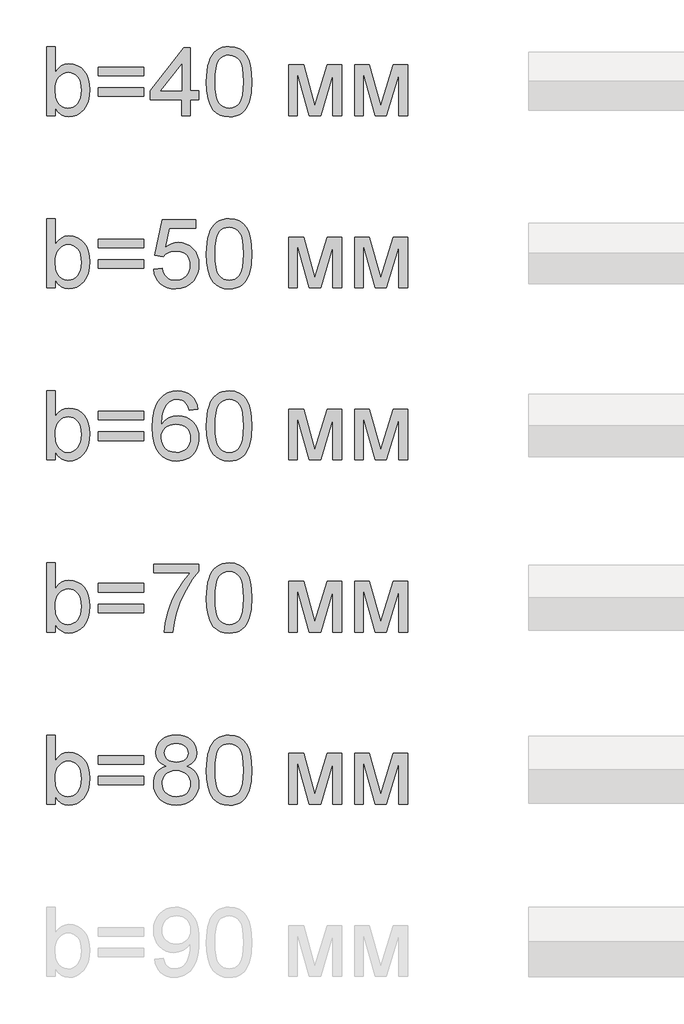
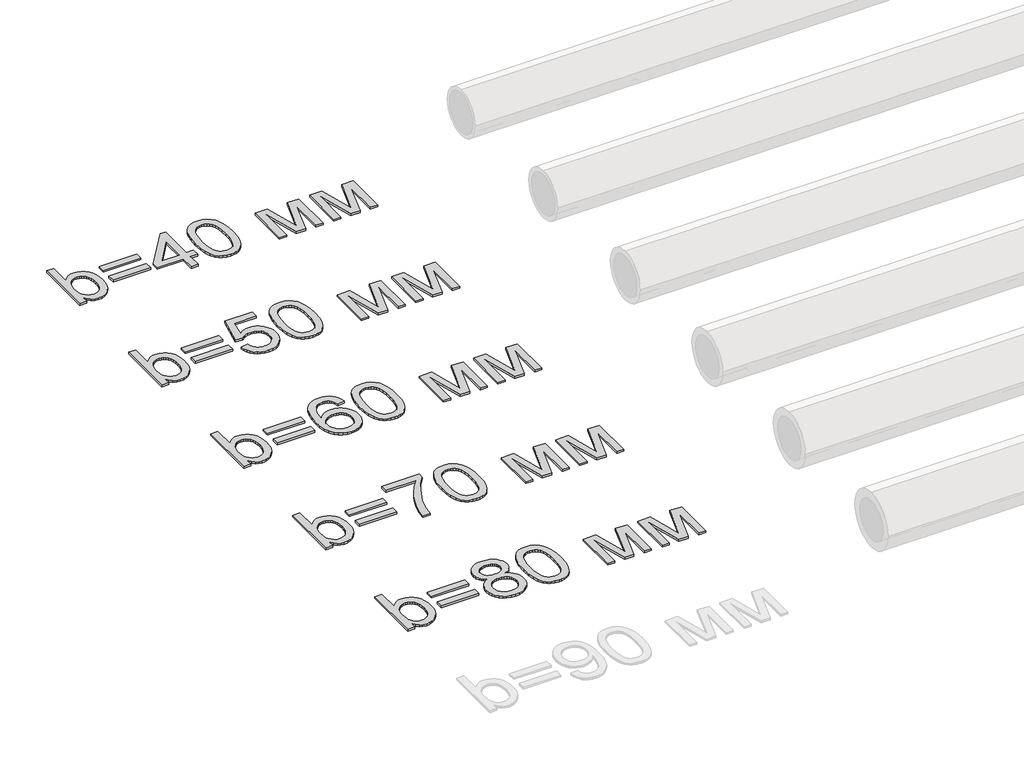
# One storey, part 67 of 86: 5 proxies.
"""IFC4 building model written with IfcOpenShell, lengths in millimetres."""

from ifc_helpers import new_model, si_unit, origin, origin_with_axes, place, context, project, spatial, polyline, outline, extrude, element, save

model = new_model("IFC4")

# Units and contexts
model_context = context("Model", 3, world=origin())
ifc_project = project(units=[si_unit("LENGTHUNIT", "METRE", prefix="MILLI")], contexts=[model_context])

# Site, building, storey
site = spatial("IfcSite", under=ifc_project)
building = spatial("IfcBuilding", under=site)
storey = spatial("IfcBuildingStorey", under=building, Name="Уровень 1", Elevation=0.0)

# Proxies
placement = place(None, origin())
element("IfcBuildingElementProxy", 1, Name="Текст модели 1", ObjectType="Текст модели 1", at=placement, inside=storey, context=model_context, shape_type="SweptSolid", body=[
    extrude(outline(polyline([(111159.6307988, 24669.2937088), (111084.2885662, 24669.2937088), (111084.2885662, 25272.0315697), (111159.6307988, 25272.0315697), (111159.6307988, 25048.5064694), (111184.4076512, 25080.3742473), (111212.3850769, 25103.1369457), (111243.563076, 25116.7945648), (111277.9416484, 25121.3471045), (111316.7531989, 25117.2452202), (111353.4310339, 25104.9395675), (111385.8782258, 25085.2026984), (111411.9978475, 25058.8071653), (111432.4704805, 25026.0104854), (111447.9767066, 24987.0701762), (111457.7439736, 24943.6049185), (111460.9997292, 24897.233393), (111457.6290105, 24843.7249568), (111447.5168541, 24796.6544555), (111430.6632602, 24756.0218892), (111407.0682288, 24721.8272577), (111378.7459136, 24694.7235517), (111347.7104688, 24675.3637617), (111313.9618943, 24663.7478877), (111277.50019, 24659.8759297), (111241.9903805, 24664.8699278), (111210.5088787, 24679.8519221), (111183.0556848, 24704.8219125), (111159.6307988, 24739.7798991), (111159.6307988, 24669.2937088)]), holes=[polyline([(111159.6307988, 24893.7017259), (111164.7811467, 24830.8674811), (111171.2190816, 24807.065516), (111180.2321905, 24788.3403224), (111198.4883345, 24765.0993774), (111219.7059286, 24748.4987024), (111243.8849727, 24738.5382973), (111271.0254669, 24735.2181623), (111293.5582391, 24737.6645776), (111314.5091188, 24745.0038234), (111333.8781058, 24757.2358997), (111351.6652003, 24774.3608066), (111366.5368299, 24796.3325588), (111377.1594225, 24823.105171), (111383.5329781, 24854.6786432), (111385.6574966, 24891.0529755), (111383.6203501, 24928.1170865), (111377.5089104, 24959.9940614), (111367.3231777, 24986.6839001), (111353.0631519, 25008.1866028), (111335.9152524, 25024.7320955), (111317.0658986, 25036.5503046), (111296.5150907, 25043.64123), (111274.2628285, 25046.0048719), (111251.7300563, 25043.5584566), (111230.7791767, 25036.2192108), (111211.4101896, 25023.9871344), (111193.6230951, 25006.8622276), (111178.7514655, 24985.1112046), (111168.1288729, 24959.00078), (111161.7553173, 24928.5309538), (111159.6307988, 24893.7017259)])]), origin_with_axes(), (0.0, 0.0, 1.0), 20.0),
    extrude(outline(polyline([(111931.8886831, 25017.7515346), (111536.3419619, 25017.7515346), (111536.3419619, 25093.0937672), (111931.8886831, 25093.0937672), (111931.8886831, 25017.7515346)])), origin_with_axes(), (0.0, 0.0, 1.0), 20.0),
    extrude(outline(polyline([(111931.8886831, 24838.8137322), (111536.3419619, 24838.8137322), (111536.3419619, 24914.1559648), (111931.8886831, 24914.1559648), (111931.8886831, 24838.8137322)])), origin_with_axes(), (0.0, 0.0, 1.0), 20.0),
    extrude(outline(polyline([(112261.5109507, 24669.2937088), (112261.5109507, 24810.5603949), (111988.3953575, 24810.5603949), (111988.3953575, 24885.9026276), (112280.3465089, 25262.6137906), (112336.8531834, 25262.6137906), (112336.8531834, 24885.9026276), (112412.195416, 24885.9026276), (112412.195416, 24810.5603949), (112336.8531834, 24810.5603949), (112336.8531834, 24669.2937088), (112261.5109507, 24669.2937088)]), holes=[polyline([(112261.5109507, 24885.9026276), (112261.5109507, 25118.6983541), (112081.1016203, 24885.9026276), (112261.5109507, 24885.9026276)])]), origin_with_axes(), (0.0, 0.0, 1.0), 20.0),
    extrude(outline(polyline([(112478.1198695, 24965.8065969), (112483.6564935, 25062.2836501), (112490.5772736, 25103.1967265), (112500.2663656, 25139.2261694), (112512.682383, 25170.6662845), (112527.7839389, 25197.8113772), (112545.5710333, 25220.6614476), (112566.0436664, 25239.2164957), (112589.2708158, 25253.5730906), (112615.3214596, 25263.8278012), (112644.1955977, 25269.9806276), (112675.8932301, 25272.0315697), (112722.3199379, 25267.1755274), (112763.8906034, 25252.6074004), (112798.6554519, 25228.8974058), (112824.664709, 25196.6157607), (112844.3096075, 25156.0383766), (112859.9813805, 25107.4411651), (112870.2452882, 25045.7289604), (112873.6665907, 24965.8065969), (112868.185149, 24869.8813667), (112861.3333468, 24829.106246), (112851.7408238, 24793.1227884), (112839.4213755, 24761.6688778), (112824.3887975, 24734.4823983), (112806.6430897, 24711.56335), (112786.1842523, 24692.9117329), (112762.9295116, 24678.458569), (112736.7960944, 24668.1348805), (112707.7840006, 24661.9406674), (112675.8932301, 24659.8759297), (112634.3961411, 24663.4627792), (112597.6079415, 24674.2233275), (112565.5286316, 24692.1575748), (112538.1582111, 24717.265521), (112511.8914367, 24762.6529621), (112493.1294549, 24819.2056218), (112481.8722659, 24886.9235001), (112478.1198695, 24965.8065969)]), holes=[polyline([(112553.4621021, 24965.9537497), (112555.6693941, 24900.456959), (112562.29127, 24847.440565), (112573.3277299, 24806.9045676), (112588.7787737, 24778.848967), (112607.467179, 24759.7604899), (112628.2157235, 24746.1258635), (112651.0244072, 24737.9450876), (112675.8932301, 24735.2181623), (112700.762053, 24737.9542847), (112723.5707367, 24746.1626517), (112744.3192812, 24759.8432634), (112763.0076866, 24778.9961198), (112778.4587304, 24807.0977057), (112789.4951902, 24847.624506), (112796.1170661, 24900.5765206), (112798.3243581, 24965.9537497), (112796.1906425, 25029.7168965), (112789.7894958, 25081.79979), (112779.120918, 25122.2024301), (112764.184909, 25150.9248169), (112745.8092033, 25170.9467945), (112724.8215355, 25185.248207), (112701.2219055, 25193.8290546), (112675.0103133, 25196.6893371), (112650.2702492, 25194.1693454), (112627.8478415, 25186.6093704), (112607.7430905, 25174.0094121), (112589.955996, 25156.3694704), (112573.9899175, 25125.0995008), (112562.5855756, 25082.9402242), (112555.7429705, 25029.8916405), (112553.4621021, 24965.9537497)])]), origin_with_axes(), (0.0, 0.0, 1.0), 20.0),
    extrude(outline(polyline([(113193.8710793, 25111.9293254), (113323.5126944, 25111.9293254), (113423.4294443, 24757.5853876), (113531.1452925, 25111.9293254), (113655.3422541, 25111.9293254), (113655.3422541, 24669.2937088), (113580.0000215, 24669.2937088), (113580.0000215, 25025.6977857), (113471.6955621, 24669.2937088), (113372.8088818, 24669.2937088), (113269.2133119, 25042.7675103), (113269.2133119, 24669.2937088), (113193.8710793, 24669.2937088), (113193.8710793, 25111.9293254)])), origin_with_axes(), (0.0, 0.0, 1.0), 20.0),
    extrude(outline(polyline([(113768.355603, 25111.9293254), (113897.9972181, 25111.9293254), (113997.913968, 24757.5853876), (114105.6298162, 25111.9293254), (114229.8267777, 25111.9293254), (114229.8267777, 24669.2937088), (114154.4845451, 24669.2937088), (114154.4845451, 25025.6977857), (114046.1800857, 24669.2937088), (113947.2934054, 24669.2937088), (113843.6978356, 25042.7675103), (113843.6978356, 24669.2937088), (113768.355603, 24669.2937088), (113768.355603, 25111.9293254)])), origin_with_axes(), (0.0, 0.0, 1.0), 20.0),
])
element("IfcBuildingElementProxy", 2, Name="Текст модели 1", ObjectType="Текст модели 1", at=placement, inside=storey, context=model_context, shape_type="SweptSolid", body=[
    extrude(outline(polyline([(111159.6307988, 23169.2937088), (111084.2885662, 23169.2937088), (111084.2885662, 23772.0315697), (111159.6307988, 23772.0315697), (111159.6307988, 23548.5064694), (111184.4076512, 23580.3742473), (111212.3850769, 23603.1369457), (111243.563076, 23616.7945648), (111277.9416484, 23621.3471045), (111316.7531989, 23617.2452202), (111353.4310339, 23604.9395675), (111385.8782258, 23585.2026984), (111411.9978475, 23558.8071653), (111432.4704805, 23526.0104854), (111447.9767066, 23487.0701762), (111457.7439736, 23443.6049185), (111460.9997292, 23397.233393), (111457.6290105, 23343.7249568), (111447.5168541, 23296.6544555), (111430.6632602, 23256.0218892), (111407.0682288, 23221.8272577), (111378.7459136, 23194.7235517), (111347.7104688, 23175.3637617), (111313.9618943, 23163.7478877), (111277.50019, 23159.8759297), (111241.9903805, 23164.8699278), (111210.5088787, 23179.8519221), (111183.0556848, 23204.8219125), (111159.6307988, 23239.7798991), (111159.6307988, 23169.2937088)]), holes=[polyline([(111159.6307988, 23393.7017259), (111164.7811467, 23330.8674811), (111171.2190816, 23307.065516), (111180.2321905, 23288.3403224), (111198.4883345, 23265.0993774), (111219.7059286, 23248.4987024), (111243.8849727, 23238.5382973), (111271.0254669, 23235.2181623), (111293.5582391, 23237.6645776), (111314.5091188, 23245.0038234), (111333.8781058, 23257.2358997), (111351.6652003, 23274.3608066), (111366.5368299, 23296.3325588), (111377.1594225, 23323.105171), (111383.5329781, 23354.6786432), (111385.6574966, 23391.0529755), (111383.6203501, 23428.1170865), (111377.5089104, 23459.9940614), (111367.3231777, 23486.6839001), (111353.0631519, 23508.1866028), (111335.9152524, 23524.7320955), (111317.0658986, 23536.5503046), (111296.5150907, 23543.64123), (111274.2628285, 23546.0048719), (111251.7300563, 23543.5584566), (111230.7791767, 23536.2192108), (111211.4101896, 23523.9871344), (111193.6230951, 23506.8622276), (111178.7514655, 23485.1112046), (111168.1288729, 23459.00078), (111161.7553173, 23428.5309538), (111159.6307988, 23393.7017259)])]), origin_with_axes(), (0.0, 0.0, 1.0), 20.0),
    extrude(outline(polyline([(111931.8886831, 23517.7515346), (111536.3419619, 23517.7515346), (111536.3419619, 23593.0937672), (111931.8886831, 23593.0937672), (111931.8886831, 23517.7515346)])), origin_with_axes(), (0.0, 0.0, 1.0), 20.0),
    extrude(outline(polyline([(111931.8886831, 23338.8137322), (111536.3419619, 23338.8137322), (111536.3419619, 23414.1559648), (111931.8886831, 23414.1559648), (111931.8886831, 23338.8137322)])), origin_with_axes(), (0.0, 0.0, 1.0), 20.0),
    extrude(outline(polyline([(112016.6486948, 23329.3959531), (112091.9909274, 23338.8137322), (112097.6195219, 23314.5933013), (112105.8232904, 23293.5826409), (112116.6022328, 23275.7817508), (112129.9563493, 23261.1906312), (112145.8580485, 23249.8276761), (112164.2797394, 23241.7112795), (112185.221422, 23236.8414416), (112208.6830962, 23235.2181623), (112237.3778919, 23237.4760381), (112262.6881731, 23244.2496653), (112284.61394, 23255.539044), (112303.1551926, 23271.3441743), (112317.8980636, 23290.8833067), (112328.4286857, 23313.3746922), (112334.7470589, 23338.8183307), (112336.8531834, 23367.2142222), (112334.8804162, 23394.0512138), (112328.9621146, 23417.9083611), (112319.0982786, 23438.7856644), (112305.2889082, 23456.6831234), (112287.4880181, 23471.0397183), (112265.6496232, 23481.2944289), (112239.7737234, 23487.4472553), (112209.8603186, 23489.4981974), (112173.3112424, 23486.2240476), (112143.7151359, 23476.4015984), (112120.0787177, 23461.3552248), (112101.4087064, 23442.409302), (112026.0664738, 23451.8270811), (112091.9909274, 23762.6137906), (112383.9420787, 23762.6137906), (112383.9420787, 23687.271558), (112152.9121858, 23687.271558), (112120.685723, 23521.2832018), (112147.2743942, 23540.3394891), (112174.5068589, 23553.951123), (112202.3831171, 23562.1181032), (112230.9031687, 23564.84043), (112267.5947992, 23561.4651127), (112301.2973885, 23551.3391608), (112332.0109366, 23534.4625743), (112359.7354435, 23510.8353531), (112382.6866814, 23481.9014342), (112399.0804228, 23449.1047543), (112408.9166677, 23412.4453135), (112412.195416, 23371.9231117), (112409.243163, 23332.8908321), (112400.3864039, 23296.5808791), (112385.6251389, 23262.993253), (112364.9593678, 23232.1279536), (112333.65261, 23200.5176931), (112297.1219279, 23177.9389357), (112255.3673214, 23164.3916812), (112208.3887906, 23159.8759297), (112169.5082623, 23162.777599), (112134.3893273, 23171.4826067), (112103.0319858, 23185.9909529), (112075.4362376, 23206.3026375), (112052.4758026, 23231.4059852), (112035.0244004, 23260.2893203), (112023.0820311, 23292.952643), (112016.6486948, 23329.3959531)])), origin_with_axes(), (0.0, 0.0, 1.0), 20.0),
    extrude(outline(polyline([(112478.1198695, 23465.8065969), (112483.6564935, 23562.2836501), (112490.5772736, 23603.1967265), (112500.2663656, 23639.2261694), (112512.682383, 23670.6662845), (112527.7839389, 23697.8113772), (112545.5710333, 23720.6614476), (112566.0436664, 23739.2164957), (112589.2708158, 23753.5730906), (112615.3214596, 23763.8278012), (112644.1955977, 23769.9806276), (112675.8932301, 23772.0315697), (112722.3199379, 23767.1755274), (112763.8906034, 23752.6074004), (112798.6554519, 23728.8974058), (112824.664709, 23696.6157607), (112844.3096075, 23656.0383766), (112859.9813805, 23607.4411651), (112870.2452882, 23545.7289604), (112873.6665907, 23465.8065969), (112868.185149, 23369.8813667), (112861.3333468, 23329.106246), (112851.7408238, 23293.1227884), (112839.4213755, 23261.6688778), (112824.3887975, 23234.4823983), (112806.6430897, 23211.56335), (112786.1842523, 23192.9117329), (112762.9295116, 23178.458569), (112736.7960944, 23168.1348805), (112707.7840006, 23161.9406674), (112675.8932301, 23159.8759297), (112634.3961411, 23163.4627792), (112597.6079415, 23174.2233275), (112565.5286316, 23192.1575748), (112538.1582111, 23217.265521), (112511.8914367, 23262.6529621), (112493.1294549, 23319.2056218), (112481.8722659, 23386.9235001), (112478.1198695, 23465.8065969)]), holes=[polyline([(112553.4621021, 23465.9537497), (112555.6693941, 23400.456959), (112562.29127, 23347.440565), (112573.3277299, 23306.9045676), (112588.7787737, 23278.848967), (112607.467179, 23259.7604899), (112628.2157235, 23246.1258635), (112651.0244072, 23237.9450876), (112675.8932301, 23235.2181623), (112700.762053, 23237.9542847), (112723.5707367, 23246.1626517), (112744.3192812, 23259.8432634), (112763.0076866, 23278.9961198), (112778.4587304, 23307.0977057), (112789.4951902, 23347.624506), (112796.1170661, 23400.5765206), (112798.3243581, 23465.9537497), (112796.1906425, 23529.7168965), (112789.7894958, 23581.79979), (112779.120918, 23622.2024301), (112764.184909, 23650.9248169), (112745.8092033, 23670.9467945), (112724.8215355, 23685.248207), (112701.2219055, 23693.8290546), (112675.0103133, 23696.6893371), (112650.2702492, 23694.1693454), (112627.8478415, 23686.6093704), (112607.7430905, 23674.0094121), (112589.955996, 23656.3694704), (112573.9899175, 23625.0995008), (112562.5855756, 23582.9402242), (112555.7429705, 23529.8916405), (112553.4621021, 23465.9537497)])]), origin_with_axes(), (0.0, 0.0, 1.0), 20.0),
    extrude(outline(polyline([(113193.8710793, 23611.9293254), (113323.5126944, 23611.9293254), (113423.4294443, 23257.5853876), (113531.1452925, 23611.9293254), (113655.3422541, 23611.9293254), (113655.3422541, 23169.2937088), (113580.0000215, 23169.2937088), (113580.0000215, 23525.6977857), (113471.6955621, 23169.2937088), (113372.8088818, 23169.2937088), (113269.2133119, 23542.7675103), (113269.2133119, 23169.2937088), (113193.8710793, 23169.2937088), (113193.8710793, 23611.9293254)])), origin_with_axes(), (0.0, 0.0, 1.0), 20.0),
    extrude(outline(polyline([(113768.355603, 23611.9293254), (113897.9972181, 23611.9293254), (113997.913968, 23257.5853876), (114105.6298162, 23611.9293254), (114229.8267777, 23611.9293254), (114229.8267777, 23169.2937088), (114154.4845451, 23169.2937088), (114154.4845451, 23525.6977857), (114046.1800857, 23169.2937088), (113947.2934054, 23169.2937088), (113843.6978356, 23542.7675103), (113843.6978356, 23169.2937088), (113768.355603, 23169.2937088), (113768.355603, 23611.9293254)])), origin_with_axes(), (0.0, 0.0, 1.0), 20.0),
])
element("IfcBuildingElementProxy", 3, Name="Текст модели 1", ObjectType="Текст модели 1", at=placement, inside=storey, context=model_context, shape_type="SweptSolid", body=[
    extrude(outline(polyline([(111159.6307988, 21669.2937088), (111084.2885662, 21669.2937088), (111084.2885662, 22272.0315697), (111159.6307988, 22272.0315697), (111159.6307988, 22048.5064694), (111184.4076512, 22080.3742473), (111212.3850769, 22103.1369457), (111243.563076, 22116.7945648), (111277.9416484, 22121.3471045), (111316.7531989, 22117.2452202), (111353.4310339, 22104.9395675), (111385.8782258, 22085.2026984), (111411.9978475, 22058.8071653), (111432.4704805, 22026.0104854), (111447.9767066, 21987.0701762), (111457.7439736, 21943.6049185), (111460.9997292, 21897.233393), (111457.6290105, 21843.7249568), (111447.5168541, 21796.6544555), (111430.6632602, 21756.0218892), (111407.0682288, 21721.8272577), (111378.7459136, 21694.7235517), (111347.7104688, 21675.3637617), (111313.9618943, 21663.7478877), (111277.50019, 21659.8759297), (111241.9903805, 21664.8699278), (111210.5088787, 21679.8519221), (111183.0556848, 21704.8219125), (111159.6307988, 21739.7798991), (111159.6307988, 21669.2937088)]), holes=[polyline([(111159.6307988, 21893.7017259), (111164.7811467, 21830.8674811), (111171.2190816, 21807.065516), (111180.2321905, 21788.3403224), (111198.4883345, 21765.0993774), (111219.7059286, 21748.4987024), (111243.8849727, 21738.5382973), (111271.0254669, 21735.2181623), (111293.5582391, 21737.6645776), (111314.5091188, 21745.0038234), (111333.8781058, 21757.2358997), (111351.6652003, 21774.3608066), (111366.5368299, 21796.3325588), (111377.1594225, 21823.105171), (111383.5329781, 21854.6786432), (111385.6574966, 21891.0529755), (111383.6203501, 21928.1170865), (111377.5089104, 21959.9940614), (111367.3231777, 21986.6839001), (111353.0631519, 22008.1866028), (111335.9152524, 22024.7320955), (111317.0658986, 22036.5503046), (111296.5150907, 22043.64123), (111274.2628285, 22046.0048719), (111251.7300563, 22043.5584566), (111230.7791767, 22036.2192108), (111211.4101896, 22023.9871344), (111193.6230951, 22006.8622276), (111178.7514655, 21985.1112046), (111168.1288729, 21959.00078), (111161.7553173, 21928.5309538), (111159.6307988, 21893.7017259)])]), origin_with_axes(), (0.0, 0.0, 1.0), 20.0),
    extrude(outline(polyline([(111931.8886831, 22017.7515346), (111536.3419619, 22017.7515346), (111536.3419619, 22093.0937672), (111931.8886831, 22093.0937672), (111931.8886831, 22017.7515346)])), origin_with_axes(), (0.0, 0.0, 1.0), 20.0),
    extrude(outline(polyline([(111931.8886831, 21838.8137322), (111536.3419619, 21838.8137322), (111536.3419619, 21914.1559648), (111931.8886831, 21914.1559648), (111931.8886831, 21838.8137322)])), origin_with_axes(), (0.0, 0.0, 1.0), 20.0),
    extrude(outline(polyline([(112402.7776369, 22111.9293254), (112327.4354043, 22102.5115463), (112315.2952984, 22139.8515688), (112298.8877615, 22165.3457911), (112282.6917566, 22179.0585925), (112264.7115241, 22188.8534506), (112244.9470639, 22194.7303655), (112223.398376, 22196.6893371), (112188.3760101, 22192.1276003), (112155.4137833, 22178.4423901), (112127.1052638, 22149.6188358), (112103.9838804, 22109.9427626), (112094.9477789, 22084.6370799), (112088.3672897, 22053.8223643), (112082.5731483, 21975.6658344), (112112.7946542, 22010.9273236), (112149.0126366, 22035.7777524), (112189.2037446, 22050.5114263), (112231.3446271, 22055.4226509), (112267.5442155, 22052.0657277), (112300.9479006, 22041.9949581), (112331.5556826, 22025.2103421), (112359.3675615, 22001.7118796), (112382.4797478, 21972.8975224), (112398.9884523, 21940.1652218), (112408.8936751, 21903.5149781), (112412.195416, 21862.9467911), (112410.6411145, 21835.4798016), (112405.9782103, 21808.9968965), (112398.2067031, 21783.4980757), (112387.3265931, 21758.9833392), (112373.7241563, 21736.3677936), (112357.7856689, 21716.5665452), (112339.5111308, 21699.5795941), (112318.900542, 21685.4069402), (112296.3953609, 21674.2371231), (112272.437046, 21666.2586823), (112247.0255972, 21661.4716179), (112220.1610145, 21659.8759297), (112175.2472214, 21664.1065727), (112134.6836329, 21676.7985015), (112098.470249, 21697.9517162), (112066.6070697, 21727.5662168), (112040.6300023, 21766.8928021), (112022.0749542, 21817.1822709), (112010.9419253, 21878.4346231), (112007.2309157, 21950.6498587), (112011.351194, 22031.6114888), (112023.7120291, 22100.7089245), (112044.3134208, 22157.9421659), (112057.7043254, 22182.1097138), (112073.1553692, 22203.311213), (112104.4161418, 22233.3763691), (112140.6617153, 22254.8514805), (112181.8920899, 22267.7365474), (112228.1072656, 22272.0315697), (112262.8077348, 22269.3736223), (112294.2156601, 22261.39978), (112322.3310416, 22248.110043), (112347.1538792, 22229.5044111), (112368.0127884, 22206.2082837), (112384.2363843, 22178.8470603), (112395.8246672, 22147.4207409), (112402.7776369, 22111.9293254)]), holes=[polyline([(112082.5731483, 21864.1240134), (112086.9325499, 21830.7387224), (112100.0107549, 21798.8617475), (112120.317841, 21771.4545389), (112146.3638863, 21751.4785465), (112177.7994027, 21739.2832584), (112214.2749026, 21735.2181623), (112240.4635021, 21737.3242868), (112263.9941542, 21743.64266), (112284.8668589, 21754.1732821), (112303.0816162, 21768.9161531), (112317.8566768, 21787.2734647), (112328.4102916, 21808.6474086), (112334.7424604, 21833.0379849), (112336.8531834, 21860.4451935), (112334.7700516, 21886.7809458), (112328.5206562, 21910.1644451), (112318.1049972, 21930.5956914), (112303.5230746, 21948.0746847), (112285.253135, 21962.0771932), (112263.773425, 21972.0789849), (112239.0839446, 21978.08006), (112211.1846938, 21980.0804183), (112185.3455822, 21978.08006), (112161.5390186, 21972.0789849), (112139.765003, 21962.0771932), (112120.0235354, 21948.0746847), (112103.638991, 21930.8256177), (112091.9357451, 21911.0841501), (112084.9137975, 21888.850282), (112082.5731483, 21864.1240134)])]), origin_with_axes(), (0.0, 0.0, 1.0), 20.0),
    extrude(outline(polyline([(112478.1198695, 21965.8065969), (112483.6564935, 22062.2836501), (112490.5772736, 22103.1967265), (112500.2663656, 22139.2261694), (112512.682383, 22170.6662845), (112527.7839389, 22197.8113772), (112545.5710333, 22220.6614476), (112566.0436664, 22239.2164957), (112589.2708158, 22253.5730906), (112615.3214596, 22263.8278012), (112644.1955977, 22269.9806276), (112675.8932301, 22272.0315697), (112722.3199379, 22267.1755274), (112763.8906034, 22252.6074004), (112798.6554519, 22228.8974058), (112824.664709, 22196.6157607), (112844.3096075, 22156.0383766), (112859.9813805, 22107.4411651), (112870.2452882, 22045.7289604), (112873.6665907, 21965.8065969), (112868.185149, 21869.8813667), (112861.3333468, 21829.106246), (112851.7408238, 21793.1227884), (112839.4213755, 21761.6688778), (112824.3887975, 21734.4823983), (112806.6430897, 21711.56335), (112786.1842523, 21692.9117329), (112762.9295116, 21678.458569), (112736.7960944, 21668.1348805), (112707.7840006, 21661.9406674), (112675.8932301, 21659.8759297), (112634.3961411, 21663.4627792), (112597.6079415, 21674.2233275), (112565.5286316, 21692.1575748), (112538.1582111, 21717.265521), (112511.8914367, 21762.6529621), (112493.1294549, 21819.2056218), (112481.8722659, 21886.9235001), (112478.1198695, 21965.8065969)]), holes=[polyline([(112553.4621021, 21965.9537497), (112555.6693941, 21900.456959), (112562.29127, 21847.440565), (112573.3277299, 21806.9045676), (112588.7787737, 21778.848967), (112607.467179, 21759.7604899), (112628.2157235, 21746.1258635), (112651.0244072, 21737.9450876), (112675.8932301, 21735.2181623), (112700.762053, 21737.9542847), (112723.5707367, 21746.1626517), (112744.3192812, 21759.8432634), (112763.0076866, 21778.9961198), (112778.4587304, 21807.0977057), (112789.4951902, 21847.624506), (112796.1170661, 21900.5765206), (112798.3243581, 21965.9537497), (112796.1906425, 22029.7168965), (112789.7894958, 22081.79979), (112779.120918, 22122.2024301), (112764.184909, 22150.9248169), (112745.8092033, 22170.9467945), (112724.8215355, 22185.248207), (112701.2219055, 22193.8290546), (112675.0103133, 22196.6893371), (112650.2702492, 22194.1693454), (112627.8478415, 22186.6093704), (112607.7430905, 22174.0094121), (112589.955996, 22156.3694704), (112573.9899175, 22125.0995008), (112562.5855756, 22082.9402242), (112555.7429705, 22029.8916405), (112553.4621021, 21965.9537497)])]), origin_with_axes(), (0.0, 0.0, 1.0), 20.0),
    extrude(outline(polyline([(113193.8710793, 22111.9293254), (113323.5126944, 22111.9293254), (113423.4294443, 21757.5853876), (113531.1452925, 22111.9293254), (113655.3422541, 22111.9293254), (113655.3422541, 21669.2937088), (113580.0000215, 21669.2937088), (113580.0000215, 22025.6977857), (113471.6955621, 21669.2937088), (113372.8088818, 21669.2937088), (113269.2133119, 22042.7675103), (113269.2133119, 21669.2937088), (113193.8710793, 21669.2937088), (113193.8710793, 22111.9293254)])), origin_with_axes(), (0.0, 0.0, 1.0), 20.0),
    extrude(outline(polyline([(113768.355603, 22111.9293254), (113897.9972181, 22111.9293254), (113997.913968, 21757.5853876), (114105.6298162, 22111.9293254), (114229.8267777, 22111.9293254), (114229.8267777, 21669.2937088), (114154.4845451, 21669.2937088), (114154.4845451, 22025.6977857), (114046.1800857, 21669.2937088), (113947.2934054, 21669.2937088), (113843.6978356, 22042.7675103), (113843.6978356, 21669.2937088), (113768.355603, 21669.2937088), (113768.355603, 22111.9293254)])), origin_with_axes(), (0.0, 0.0, 1.0), 20.0),
])
element("IfcBuildingElementProxy", 4, Name="Текст модели 1", ObjectType="Текст модели 1", at=placement, inside=storey, context=model_context, shape_type="SweptSolid", body=[
    extrude(outline(polyline([(111159.6307988, 20169.2937088), (111084.2885662, 20169.2937088), (111084.2885662, 20772.0315697), (111159.6307988, 20772.0315697), (111159.6307988, 20548.5064694), (111184.4076512, 20580.3742473), (111212.3850769, 20603.1369457), (111243.563076, 20616.7945648), (111277.9416484, 20621.3471045), (111316.7531989, 20617.2452202), (111353.4310339, 20604.9395675), (111385.8782258, 20585.2026984), (111411.9978475, 20558.8071653), (111432.4704805, 20526.0104854), (111447.9767066, 20487.0701762), (111457.7439736, 20443.6049185), (111460.9997292, 20397.233393), (111457.6290105, 20343.7249568), (111447.5168541, 20296.6544555), (111430.6632602, 20256.0218892), (111407.0682288, 20221.8272577), (111378.7459136, 20194.7235517), (111347.7104688, 20175.3637617), (111313.9618943, 20163.7478877), (111277.50019, 20159.8759297), (111241.9903805, 20164.8699278), (111210.5088787, 20179.8519221), (111183.0556848, 20204.8219125), (111159.6307988, 20239.7798991), (111159.6307988, 20169.2937088)]), holes=[polyline([(111159.6307988, 20393.7017259), (111164.7811467, 20330.8674811), (111171.2190816, 20307.065516), (111180.2321905, 20288.3403224), (111198.4883345, 20265.0993774), (111219.7059286, 20248.4987024), (111243.8849727, 20238.5382973), (111271.0254669, 20235.2181623), (111293.5582391, 20237.6645776), (111314.5091188, 20245.0038234), (111333.8781058, 20257.2358997), (111351.6652003, 20274.3608066), (111366.5368299, 20296.3325588), (111377.1594225, 20323.105171), (111383.5329781, 20354.6786432), (111385.6574966, 20391.0529755), (111383.6203501, 20428.1170865), (111377.5089104, 20459.9940614), (111367.3231777, 20486.6839001), (111353.0631519, 20508.1866028), (111335.9152524, 20524.7320955), (111317.0658986, 20536.5503046), (111296.5150907, 20543.64123), (111274.2628285, 20546.0048719), (111251.7300563, 20543.5584566), (111230.7791767, 20536.2192108), (111211.4101896, 20523.9871344), (111193.6230951, 20506.8622276), (111178.7514655, 20485.1112046), (111168.1288729, 20459.00078), (111161.7553173, 20428.5309538), (111159.6307988, 20393.7017259)])]), origin_with_axes(), (0.0, 0.0, 1.0), 20.0),
    extrude(outline(polyline([(111931.8886831, 20517.7515346), (111536.3419619, 20517.7515346), (111536.3419619, 20593.0937672), (111931.8886831, 20593.0937672), (111931.8886831, 20517.7515346)])), origin_with_axes(), (0.0, 0.0, 1.0), 20.0),
    extrude(outline(polyline([(111931.8886831, 20338.8137322), (111536.3419619, 20338.8137322), (111536.3419619, 20414.1559648), (111931.8886831, 20414.1559648), (111931.8886831, 20338.8137322)])), origin_with_axes(), (0.0, 0.0, 1.0), 20.0),
    extrude(outline(polyline([(112016.6486948, 20687.271558), (112016.6486948, 20762.6137906), (112412.195416, 20762.6137906), (112412.195416, 20701.6925322), (112355.8175002, 20630.3418193), (112299.9914074, 20539.6037251), (112250.7504024, 20437.7555948), (112230.861782, 20385.7692703), (112214.1277498, 20333.0747731), (112196.1751084, 20254.7526963), (112186.1687181, 20169.2937088), (112110.8264855, 20169.2937088), (112118.9750717, 20246.953598), (112140.7720799, 20339.2551906), (112156.6415895, 20388.6203558), (112175.628899, 20437.0934072), (112197.7340084, 20484.6743447), (112222.9569177, 20531.3631685), (112278.2127933, 20616.5830326), (112336.8531834, 20687.271558), (112016.6486948, 20687.271558)])), origin_with_axes(), (0.0, 0.0, 1.0), 20.0),
    extrude(outline(polyline([(112478.1198695, 20465.8065969), (112483.6564935, 20562.2836501), (112490.5772736, 20603.1967265), (112500.2663656, 20639.2261694), (112512.682383, 20670.6662845), (112527.7839389, 20697.8113772), (112545.5710333, 20720.6614476), (112566.0436664, 20739.2164957), (112589.2708158, 20753.5730906), (112615.3214596, 20763.8278012), (112644.1955977, 20769.9806276), (112675.8932301, 20772.0315697), (112722.3199379, 20767.1755274), (112763.8906034, 20752.6074004), (112798.6554519, 20728.8974058), (112824.664709, 20696.6157607), (112844.3096075, 20656.0383766), (112859.9813805, 20607.4411651), (112870.2452882, 20545.7289604), (112873.6665907, 20465.8065969), (112868.185149, 20369.8813667), (112861.3333468, 20329.106246), (112851.7408238, 20293.1227884), (112839.4213755, 20261.6688778), (112824.3887975, 20234.4823983), (112806.6430897, 20211.56335), (112786.1842523, 20192.9117329), (112762.9295116, 20178.458569), (112736.7960944, 20168.1348805), (112707.7840006, 20161.9406674), (112675.8932301, 20159.8759297), (112634.3961411, 20163.4627792), (112597.6079415, 20174.2233275), (112565.5286316, 20192.1575748), (112538.1582111, 20217.265521), (112511.8914367, 20262.6529621), (112493.1294549, 20319.2056218), (112481.8722659, 20386.9235001), (112478.1198695, 20465.8065969)]), holes=[polyline([(112553.4621021, 20465.9537497), (112555.6693941, 20400.456959), (112562.29127, 20347.440565), (112573.3277299, 20306.9045676), (112588.7787737, 20278.848967), (112607.467179, 20259.7604899), (112628.2157235, 20246.1258635), (112651.0244072, 20237.9450876), (112675.8932301, 20235.2181623), (112700.762053, 20237.9542847), (112723.5707367, 20246.1626517), (112744.3192812, 20259.8432634), (112763.0076866, 20278.9961198), (112778.4587304, 20307.0977057), (112789.4951902, 20347.624506), (112796.1170661, 20400.5765206), (112798.3243581, 20465.9537497), (112796.1906425, 20529.7168965), (112789.7894958, 20581.79979), (112779.120918, 20622.2024301), (112764.184909, 20650.9248169), (112745.8092033, 20670.9467945), (112724.8215355, 20685.248207), (112701.2219055, 20693.8290546), (112675.0103133, 20696.6893371), (112650.2702492, 20694.1693454), (112627.8478415, 20686.6093704), (112607.7430905, 20674.0094121), (112589.955996, 20656.3694704), (112573.9899175, 20625.0995008), (112562.5855756, 20582.9402242), (112555.7429705, 20529.8916405), (112553.4621021, 20465.9537497)])]), origin_with_axes(), (0.0, 0.0, 1.0), 20.0),
    extrude(outline(polyline([(113193.8710793, 20611.9293254), (113323.5126944, 20611.9293254), (113423.4294443, 20257.5853876), (113531.1452925, 20611.9293254), (113655.3422541, 20611.9293254), (113655.3422541, 20169.2937088), (113580.0000215, 20169.2937088), (113580.0000215, 20525.6977857), (113471.6955621, 20169.2937088), (113372.8088818, 20169.2937088), (113269.2133119, 20542.7675103), (113269.2133119, 20169.2937088), (113193.8710793, 20169.2937088), (113193.8710793, 20611.9293254)])), origin_with_axes(), (0.0, 0.0, 1.0), 20.0),
    extrude(outline(polyline([(113768.355603, 20611.9293254), (113897.9972181, 20611.9293254), (113997.913968, 20257.5853876), (114105.6298162, 20611.9293254), (114229.8267777, 20611.9293254), (114229.8267777, 20169.2937088), (114154.4845451, 20169.2937088), (114154.4845451, 20525.6977857), (114046.1800857, 20169.2937088), (113947.2934054, 20169.2937088), (113843.6978356, 20542.7675103), (113843.6978356, 20169.2937088), (113768.355603, 20169.2937088), (113768.355603, 20611.9293254)])), origin_with_axes(), (0.0, 0.0, 1.0), 20.0),
])
element("IfcBuildingElementProxy", 5, Name="Текст модели 1", ObjectType="Текст модели 1", at=placement, inside=storey, context=model_context, shape_type="SweptSolid", body=[
    extrude(outline(polyline([(111159.6307988, 18669.2937088), (111084.2885662, 18669.2937088), (111084.2885662, 19272.0315697), (111159.6307988, 19272.0315697), (111159.6307988, 19048.5064694), (111184.4076512, 19080.3742473), (111212.3850769, 19103.1369457), (111243.563076, 19116.7945648), (111277.9416484, 19121.3471045), (111316.7531989, 19117.2452202), (111353.4310339, 19104.9395675), (111385.8782258, 19085.2026984), (111411.9978475, 19058.8071653), (111432.4704805, 19026.0104854), (111447.9767066, 18987.0701762), (111457.7439736, 18943.6049185), (111460.9997292, 18897.233393), (111457.6290105, 18843.7249568), (111447.5168541, 18796.6544555), (111430.6632602, 18756.0218892), (111407.0682288, 18721.8272577), (111378.7459136, 18694.7235517), (111347.7104688, 18675.3637617), (111313.9618943, 18663.7478877), (111277.50019, 18659.8759297), (111241.9903805, 18664.8699278), (111210.5088787, 18679.8519221), (111183.0556848, 18704.8219125), (111159.6307988, 18739.7798991), (111159.6307988, 18669.2937088)]), holes=[polyline([(111159.6307988, 18893.7017259), (111164.7811467, 18830.8674811), (111171.2190816, 18807.065516), (111180.2321905, 18788.3403224), (111198.4883345, 18765.0993774), (111219.7059286, 18748.4987024), (111243.8849727, 18738.5382973), (111271.0254669, 18735.2181623), (111293.5582391, 18737.6645776), (111314.5091188, 18745.0038234), (111333.8781058, 18757.2358997), (111351.6652003, 18774.3608066), (111366.5368299, 18796.3325588), (111377.1594225, 18823.105171), (111383.5329781, 18854.6786432), (111385.6574966, 18891.0529755), (111383.6203501, 18928.1170865), (111377.5089104, 18959.9940614), (111367.3231777, 18986.6839001), (111353.0631519, 19008.1866028), (111335.9152524, 19024.7320955), (111317.0658986, 19036.5503046), (111296.5150907, 19043.64123), (111274.2628285, 19046.0048719), (111251.7300563, 19043.5584566), (111230.7791767, 19036.2192108), (111211.4101896, 19023.9871344), (111193.6230951, 19006.8622276), (111178.7514655, 18985.1112046), (111168.1288729, 18959.00078), (111161.7553173, 18928.5309538), (111159.6307988, 18893.7017259)])]), origin_with_axes(), (0.0, 0.0, 1.0), 20.0),
    extrude(outline(polyline([(111931.8886831, 19017.7515346), (111536.3419619, 19017.7515346), (111536.3419619, 19093.0937672), (111931.8886831, 19093.0937672), (111931.8886831, 19017.7515346)])), origin_with_axes(), (0.0, 0.0, 1.0), 20.0),
    extrude(outline(polyline([(111931.8886831, 18838.8137322), (111536.3419619, 18838.8137322), (111536.3419619, 18914.1559648), (111931.8886831, 18914.1559648), (111931.8886831, 18838.8137322)])), origin_with_axes(), (0.0, 0.0, 1.0), 20.0),
    extrude(outline(polyline([(112126.4246821, 19001.2704212), (112086.0864213, 19021.136049), (112070.4284439, 19033.7176132), (112057.7779018, 19048.065011), (112041.0576651, 19081.5054844), (112035.4842529, 19120.9056461), (112038.5192794, 19151.6329897), (112047.6243588, 19179.8035535), (112062.7994911, 19205.4173374), (112084.0446763, 19228.4743415), (112110.3390419, 19247.5306288), (112140.6617153, 19261.1422626), (112175.0126966, 19269.3092429), (112213.3919858, 19272.0315697), (112251.9552159, 19269.2448636), (112286.5637146, 19260.8847452), (112317.2174819, 19246.9512147), (112343.9165177, 19227.4442719), (112365.547979, 19203.9366124), (112380.9990228, 19178.0009317), (112390.2696491, 19149.6372299), (112393.3598578, 19118.8455069), (112387.860022, 19080.7145381), (112371.3605145, 19047.8442818), (112358.9398986, 19033.593453), (112343.6773944, 19021.0808667), (112304.6267206, 19001.2704212), (112329.3897774, 18990.7352006), (112350.9982461, 18977.3764857), (112369.4521267, 18961.1942764), (112384.7514191, 18942.1885728), (112396.7581677, 18920.7824392), (112405.3344168, 18897.3989399), (112410.4801662, 18872.0380749), (112412.195416, 18844.6998441), (112408.7925075, 18807.1206983), (112398.5837822, 18772.6685494), (112381.5692399, 18741.3433976), (112357.7488807, 18713.1452426), (112328.3735034, 18689.8399182), (112294.6939067, 18673.1932579), (112256.7100907, 18663.2052618), (112214.4220554, 18659.8759297), (112172.13402, 18663.2190574), (112134.150204, 18673.2484402), (112100.4706074, 18689.9640784), (112071.09523, 18713.3659718), (112047.2748709, 18741.7618633), (112030.2603286, 18773.4594957), (112020.0516032, 18808.458869), (112016.6486948, 18846.7599833), (112018.4329224, 18875.3444143), (112023.7856055, 18901.5008242), (112032.7067438, 18925.2292128), (112045.1963376, 18946.5295804), (112060.9784752, 18965.0156506), (112079.7772451, 18980.3011475), (112101.5926474, 18992.3860711), (112126.4246821, 19001.2704212)]), holes=[polyline([(112110.8264855, 19118.6983541), (112112.4957501, 19101.4262944), (112117.5035437, 19085.8097037), (112125.8498665, 19071.848582), (112137.5347184, 19059.5429293), (112152.4109466, 19049.4997508), (112170.3313982, 19042.3260519), (112191.2960734, 19038.0218326), (112215.3049722, 19036.5870928), (112238.7206611, 19038.0126355), (112259.2300824, 19042.2892637), (112276.8332358, 19049.4169774), (112291.5301216, 19059.3957765), (112303.1184044, 19071.4439118), (112311.3957493, 19084.7796342), (112316.3621562, 19099.4029435), (112318.0176252, 19115.3138398), (112316.3069739, 19131.8455369), (112311.1750201, 19147.0068736), (112302.6217637, 19160.7978499), (112290.6472048, 19173.2184658), (112275.6192253, 19183.486972), (112257.9057072, 19190.8216193), (112237.5066506, 19195.2224076), (112214.4220554, 19196.6893371), (112191.1581177, 19195.2545973), (112170.662492, 19190.950378), (112152.9351784, 19183.7766791), (112137.9761768, 19173.7335006), (112126.0981868, 19161.6853652), (112117.6139083, 19148.4967957), (112112.5233412, 19134.167792), (112110.8264855, 19118.6983541)]), polyline([(112091.9909274, 18849.4087336), (112095.1363184, 18820.5851793), (112104.5724916, 18792.68133), (112121.9917041, 18768.345936), (112149.086213, 18750.2277477), (112181.533405, 18738.9705587), (112215.0106666, 18735.2181623), (112242.2523283, 18737.1909295), (112266.2934167, 18743.1092311), (112287.1339317, 18752.9730671), (112304.7738734, 18766.7824375), (112318.8085715, 18783.6360314), (112328.8333559, 18802.632538), (112334.8482265, 18823.7719571), (112336.8531834, 18847.0542889), (112334.7838471, 18870.7091012), (112328.5758385, 18892.2301979), (112318.2291574, 18911.617579), (112303.7438038, 18928.8712446), (112285.6256155, 18943.0347014), (112264.3804303, 18953.1514563), (112240.0082481, 18959.2215092), (112212.509069, 18961.2448602), (112185.6674789, 18959.2491003), (112161.9436888, 18953.2618209), (112141.3376985, 18943.2830218), (112123.8495082, 18929.312703), (112109.9113791, 18912.344146), (112099.9555726, 18893.3706321), (112093.9820887, 18872.3921613), (112091.9909274, 18849.4087336)])]), origin_with_axes(), (0.0, 0.0, 1.0), 20.0),
    extrude(outline(polyline([(112478.1198695, 18965.8065969), (112483.6564935, 19062.2836501), (112490.5772736, 19103.1967265), (112500.2663656, 19139.2261694), (112512.682383, 19170.6662845), (112527.7839389, 19197.8113772), (112545.5710333, 19220.6614476), (112566.0436664, 19239.2164957), (112589.2708158, 19253.5730906), (112615.3214596, 19263.8278012), (112644.1955977, 19269.9806276), (112675.8932301, 19272.0315697), (112722.3199379, 19267.1755274), (112763.8906034, 19252.6074004), (112798.6554519, 19228.8974058), (112824.664709, 19196.6157607), (112844.3096075, 19156.0383766), (112859.9813805, 19107.4411651), (112870.2452882, 19045.7289604), (112873.6665907, 18965.8065969), (112868.185149, 18869.8813667), (112861.3333468, 18829.106246), (112851.7408238, 18793.1227884), (112839.4213755, 18761.6688778), (112824.3887975, 18734.4823983), (112806.6430897, 18711.56335), (112786.1842523, 18692.9117329), (112762.9295116, 18678.458569), (112736.7960944, 18668.1348805), (112707.7840006, 18661.9406674), (112675.8932301, 18659.8759297), (112634.3961411, 18663.4627792), (112597.6079415, 18674.2233275), (112565.5286316, 18692.1575748), (112538.1582111, 18717.265521), (112511.8914367, 18762.6529621), (112493.1294549, 18819.2056218), (112481.8722659, 18886.9235001), (112478.1198695, 18965.8065969)]), holes=[polyline([(112553.4621021, 18965.9537497), (112555.6693941, 18900.456959), (112562.29127, 18847.440565), (112573.3277299, 18806.9045676), (112588.7787737, 18778.848967), (112607.467179, 18759.7604899), (112628.2157235, 18746.1258635), (112651.0244072, 18737.9450876), (112675.8932301, 18735.2181623), (112700.762053, 18737.9542847), (112723.5707367, 18746.1626517), (112744.3192812, 18759.8432634), (112763.0076866, 18778.9961198), (112778.4587304, 18807.0977057), (112789.4951902, 18847.624506), (112796.1170661, 18900.5765206), (112798.3243581, 18965.9537497), (112796.1906425, 19029.7168965), (112789.7894958, 19081.79979), (112779.120918, 19122.2024301), (112764.184909, 19150.9248169), (112745.8092033, 19170.9467945), (112724.8215355, 19185.248207), (112701.2219055, 19193.8290546), (112675.0103133, 19196.6893371), (112650.2702492, 19194.1693454), (112627.8478415, 19186.6093704), (112607.7430905, 19174.0094121), (112589.955996, 19156.3694704), (112573.9899175, 19125.0995008), (112562.5855756, 19082.9402242), (112555.7429705, 19029.8916405), (112553.4621021, 18965.9537497)])]), origin_with_axes(), (0.0, 0.0, 1.0), 20.0),
    extrude(outline(polyline([(113193.8710793, 19111.9293254), (113323.5126944, 19111.9293254), (113423.4294443, 18757.5853876), (113531.1452925, 19111.9293254), (113655.3422541, 19111.9293254), (113655.3422541, 18669.2937088), (113580.0000215, 18669.2937088), (113580.0000215, 19025.6977857), (113471.6955621, 18669.2937088), (113372.8088818, 18669.2937088), (113269.2133119, 19042.7675103), (113269.2133119, 18669.2937088), (113193.8710793, 18669.2937088), (113193.8710793, 19111.9293254)])), origin_with_axes(), (0.0, 0.0, 1.0), 20.0),
    extrude(outline(polyline([(113768.355603, 19111.9293254), (113897.9972181, 19111.9293254), (113997.913968, 18757.5853876), (114105.6298162, 19111.9293254), (114229.8267777, 19111.9293254), (114229.8267777, 18669.2937088), (114154.4845451, 18669.2937088), (114154.4845451, 19025.6977857), (114046.1800857, 18669.2937088), (113947.2934054, 18669.2937088), (113843.6978356, 19042.7675103), (113843.6978356, 18669.2937088), (113768.355603, 18669.2937088), (113768.355603, 19111.9293254)])), origin_with_axes(), (0.0, 0.0, 1.0), 20.0),
])

save(model, "model.ifc")
